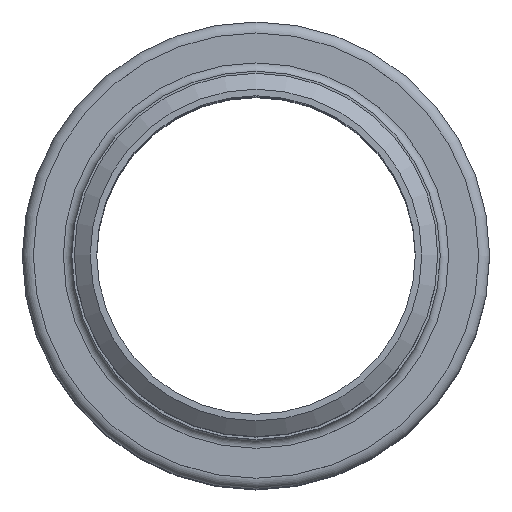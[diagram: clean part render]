
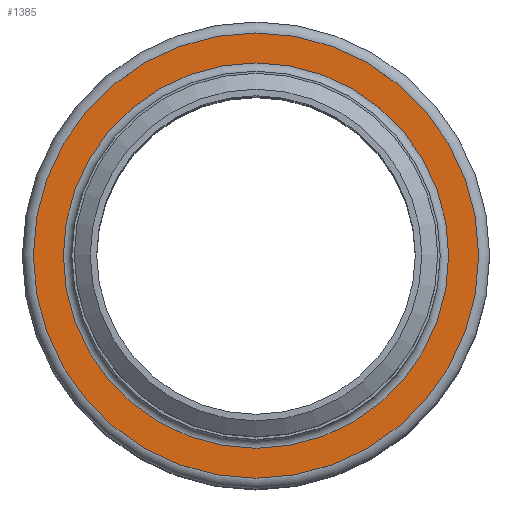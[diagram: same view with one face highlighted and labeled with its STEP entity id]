
A CAD part, top view. The second image highlights one B-rep face of the part: STEP entity #1385.
In plain terms, the highlighted planar face has unit normal (0, 0, 1).
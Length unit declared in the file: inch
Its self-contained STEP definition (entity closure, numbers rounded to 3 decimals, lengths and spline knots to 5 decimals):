
#155=FACE_BOUND('',#416,.T.);
#256=FACE_OUTER_BOUND('',#415,.T.);
#415=EDGE_LOOP('',(#1168));
#416=EDGE_LOOP('',(#1169));
#584=CIRCLE('',#1684,1.85575);
#585=CIRCLE('',#1686,2.14425);
#703=VERTEX_POINT('',#2631);
#704=VERTEX_POINT('',#2635);
#862=EDGE_CURVE('',#703,#703,#584,.T.);
#863=EDGE_CURVE('',#704,#704,#585,.T.);
#1168=ORIENTED_EDGE('',*,*,#863,.F.);
#1169=ORIENTED_EDGE('',*,*,#862,.T.);
#1284=PLANE('',#1685);
#1385=ADVANCED_FACE('',(#256,#155),#1284,.T.);
#1684=AXIS2_PLACEMENT_3D('',#2633,#2197,#2198);
#1685=AXIS2_PLACEMENT_3D('',#2634,#2199,#2200);
#1686=AXIS2_PLACEMENT_3D('',#2636,#2201,#2202);
#2197=DIRECTION('center_axis',(0.,0.,-1.));
#2198=DIRECTION('ref_axis',(1.,0.,0.));
#2199=DIRECTION('center_axis',(0.,0.,1.));
#2200=DIRECTION('ref_axis',(1.,0.,0.));
#2201=DIRECTION('center_axis',(0.,0.,-1.));
#2202=DIRECTION('ref_axis',(1.,0.,0.));
#2631=CARTESIAN_POINT('',(1.85575,0.,-0.08175));
#2633=CARTESIAN_POINT('Origin',(0.,0.,-0.08175));
#2634=CARTESIAN_POINT('Origin',(0.,2.14425,-0.08175));
#2635=CARTESIAN_POINT('',(2.14425,0.,-0.08175));
#2636=CARTESIAN_POINT('Origin',(0.,0.,-0.08175));
